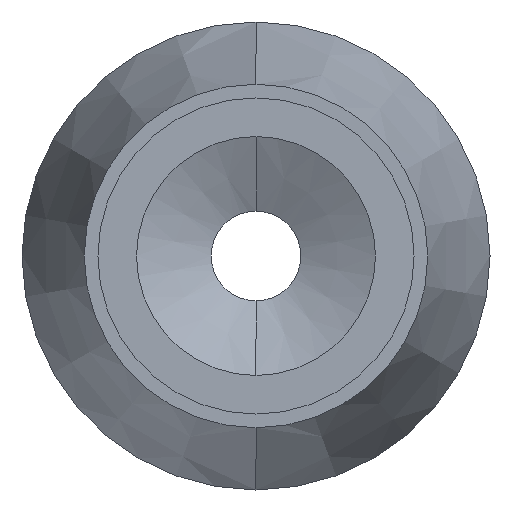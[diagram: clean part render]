
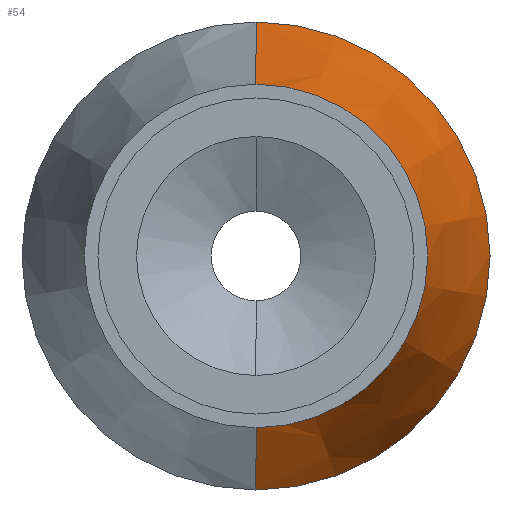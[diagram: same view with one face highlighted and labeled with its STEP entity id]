
A CAD part, left-side view. The second image highlights one B-rep face of the part: STEP entity #54.
In plain terms, the highlighted conical face has half-angle 15 degrees and reference radius 3.45 mm.
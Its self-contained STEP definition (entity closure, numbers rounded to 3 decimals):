
#54 = ADVANCED_FACE ( 'NONE', ( #804 ), #802, .T. ) ;
#55 = EDGE_LOOP ( 'NONE', ( #56, #60, #63, #66 ) ) ;
#56 = ORIENTED_EDGE ( 'NONE', *, *, #57, .F. ) ;
#57 = EDGE_CURVE ( 'NONE', #58, #59, #803, .T. ) ;
#58 = VERTEX_POINT ( 'NONE', #793 ) ;
#59 = VERTEX_POINT ( 'NONE', #792 ) ;
#60 = ORIENTED_EDGE ( 'NONE', *, *, #61, .T. ) ;
#61 = EDGE_CURVE ( 'NONE', #58, #62, #791, .T. ) ;
#62 = VERTEX_POINT ( 'NONE', #787 ) ;
#63 = ORIENTED_EDGE ( 'NONE', *, *, #64, .T. ) ;
#64 = EDGE_CURVE ( 'NONE', #62, #65, #786, .T. ) ;
#65 = VERTEX_POINT ( 'NONE', #781 ) ;
#66 = ORIENTED_EDGE ( 'NONE', *, *, #67, .F. ) ;
#67 = EDGE_CURVE ( 'NONE', #59, #65, #780, .T. ) ;
#328 = VECTOR ( 'NONE', #377, 1000. ) ;
#377 = DIRECTION ( 'NONE',  ( 0.966, 0., 0.259 ) ) ;
#779 = CARTESIAN_POINT ( 'NONE',  ( 5.4, 0., 3.45 ) ) ;
#780 = LINE ( 'NONE', #779, #328 ) ;
#781 = CARTESIAN_POINT ( 'NONE',  ( 10.065, 0., 4.7 ) ) ;
#782 = DIRECTION ( 'NONE',  ( 0., 0., -1. ) ) ;
#783 = DIRECTION ( 'NONE',  ( -1., 0., 0. ) ) ;
#784 = CARTESIAN_POINT ( 'NONE',  ( 10.065, 0., 0. ) ) ;
#785 = AXIS2_PLACEMENT_3D ( 'NONE', #784, #783, #782 ) ;
#786 = CIRCLE ( 'NONE', #785, 4.7 ) ;
#787 = CARTESIAN_POINT ( 'NONE',  ( 10.065, 0., -4.7 ) ) ;
#788 = DIRECTION ( 'NONE',  ( 0.966, 0., -0.259 ) ) ;
#789 = VECTOR ( 'NONE', #788, 1000. ) ;
#790 = CARTESIAN_POINT ( 'NONE',  ( 5.4, 0., -3.45 ) ) ;
#791 = LINE ( 'NONE', #790, #789 ) ;
#792 = CARTESIAN_POINT ( 'NONE',  ( 5.4, 0., 3.45 ) ) ;
#793 = CARTESIAN_POINT ( 'NONE',  ( 5.4, 0., -3.45 ) ) ;
#794 = DIRECTION ( 'NONE',  ( 0., 0., 1. ) ) ;
#795 = DIRECTION ( 'NONE',  ( -1., 0., 0. ) ) ;
#796 = CARTESIAN_POINT ( 'NONE',  ( 5.4, 0., 0. ) ) ;
#797 = AXIS2_PLACEMENT_3D ( 'NONE', #796, #795, #794 ) ;
#798 = DIRECTION ( 'NONE',  ( 0., 0., 1. ) ) ;
#799 = DIRECTION ( 'NONE',  ( 1., 0., 0. ) ) ;
#800 = CARTESIAN_POINT ( 'NONE',  ( 5.4, 0., 0. ) ) ;
#801 = AXIS2_PLACEMENT_3D ( 'NONE', #800, #799, #798 ) ;
#802 = CONICAL_SURFACE ( 'NONE', #801, 3.45, 0.262 ) ;
#803 = CIRCLE ( 'NONE', #797, 3.45 ) ;
#804 = FACE_OUTER_BOUND ( 'NONE', #55, .T. ) ;
